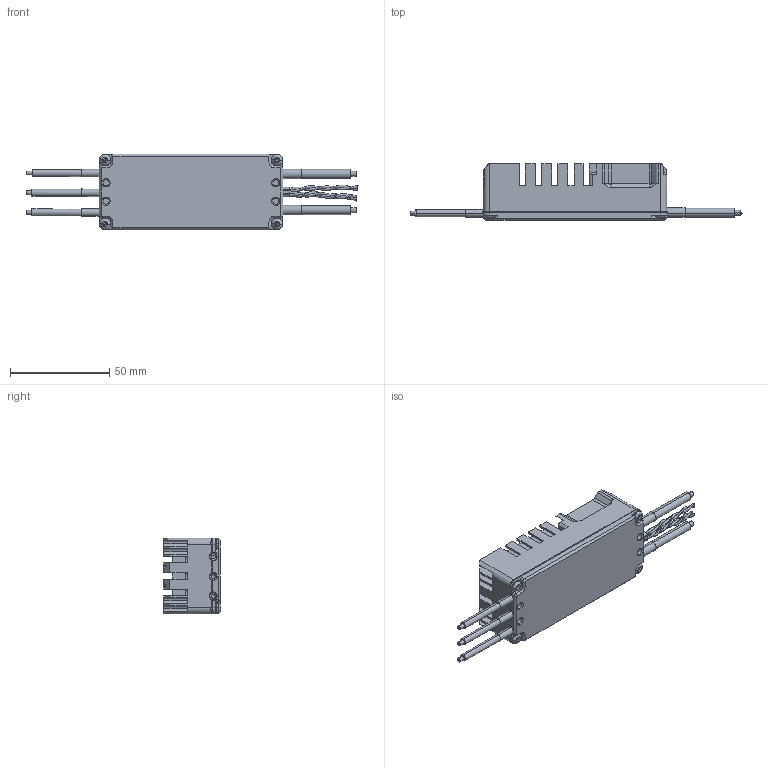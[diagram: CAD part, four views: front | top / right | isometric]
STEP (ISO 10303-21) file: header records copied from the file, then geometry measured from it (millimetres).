
FILE_DESCRIPTION (( 'STEP AP203' ), '1' );
FILE_NAME ('RD A -Series 6S-12S 80A ESC.STEP', '2026-04-29T07:42:09', ( '' ), ( '' ), 'RDSTEP 2.0', 'RD Product 2026', '' );
FILE_SCHEMA (( 'CONFIG_CONTROL_DESIGN' ));
Length unit declared in the file: millimetre
Products named in the file (1): RD A -Series 6S-12S 80A ESC
Bounding box: 167.67 x 28.5 x 38.32 mm (x, y, z)
Volume: 70897.5 mm3; surface area: 32967.1 mm2
Topology: 1 solids, 33 shells, 1010 faces, 2664 edges, 1726 vertices
Faces by surface type: plane 653, cylinder 283, cone 40, torus 16, bspline 10, sphere 8
Entity records: 33936 total; most frequent: CARTESIAN_POINT 8759, ORIENTED_EDGE 5304, DIRECTION 5137, EDGE_CURVE 2652, LINE 1885, VECTOR 1885, VERTEX_POINT 1726, AXIS2_PLACEMENT_3D 1626
